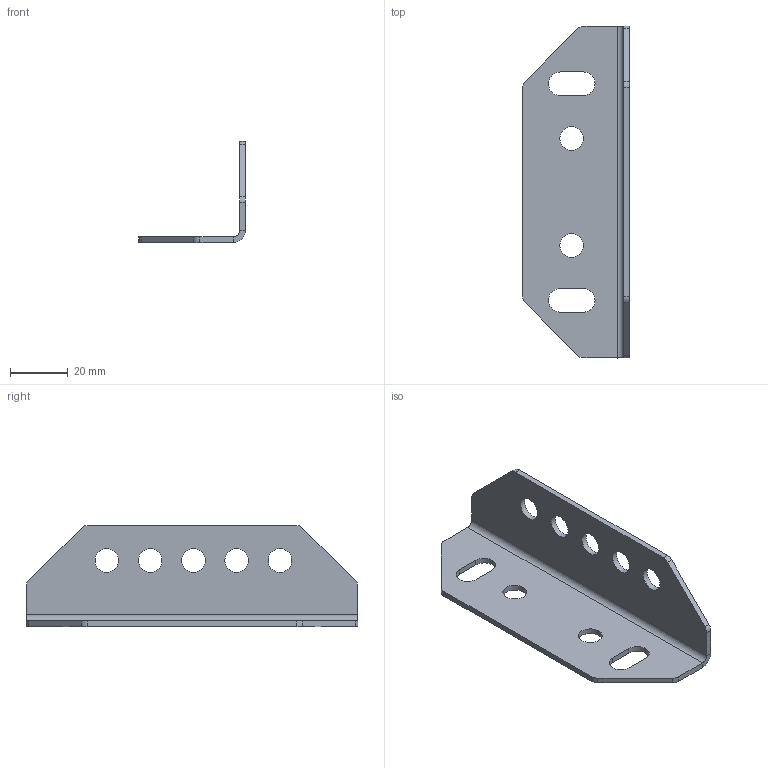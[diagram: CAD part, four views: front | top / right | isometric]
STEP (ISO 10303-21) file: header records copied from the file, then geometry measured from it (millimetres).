
FILE_DESCRIPTION(/* description */ (''),/* implementation_level */ '2;1');
FILE_NAME(/* name */ 'C:\Users\jaaku\OneDrive\Pulpit\Projekty\CNCASE\Ergwind MFG4025P\Prod\Gas-spring-mount-2.stp',/* time_stamp */ '2021-12-02T22:47:35+01:00',/* author */ ('jaaku'),/* organization */ (''),/* preprocessor_version */ 'ST-DEVELOPER v18.1',/* originating_system */ 'Autodesk Inventor 2022',/* authorisation */ '');
FILE_SCHEMA (('AUTOMOTIVE_DESIGN { 1 0 10303 214 3 1 1 }'));
Length unit declared in the file: millimetre
Products named in the file (1): Gas-spring-mount
Bounding box: 37 x 115 x 35 mm (x, y, z)
Volume: 12987.8 mm3; surface area: 14154.5 mm2
Topology: 1 solids, 1 shells, 41 faces, 113 edges, 79 vertices
Faces by surface type: cylinder 21, plane 20
Full cylindrical faces by diameter (mm): 8.2 x7
Entity records: 1387 total; most frequent: DIRECTION 235, CARTESIAN_POINT 230, ORIENTED_EDGE 218, EDGE_CURVE 109, AXIS2_PLACEMENT_3D 84, VERTEX_POINT 70, LINE 67, VECTOR 67
